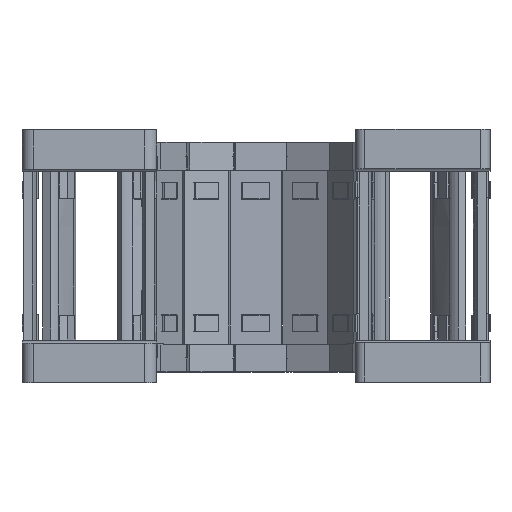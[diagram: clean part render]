
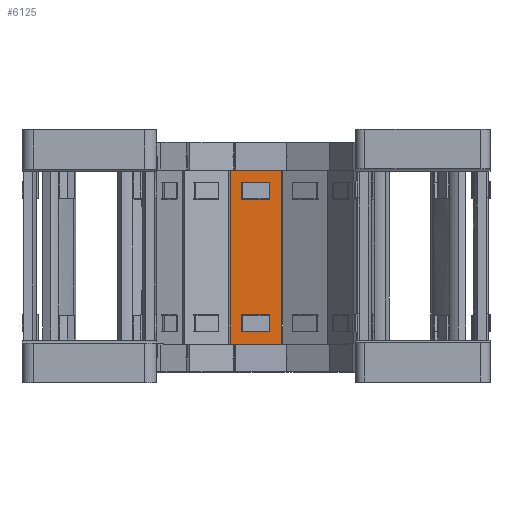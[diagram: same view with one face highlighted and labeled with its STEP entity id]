
A CAD part, top view. The second image highlights one B-rep face of the part: STEP entity #6125.
In plain terms, the highlighted planar face has unit normal (0.026, 0, 1).
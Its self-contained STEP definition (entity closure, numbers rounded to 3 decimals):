
#6125=ADVANCED_FACE('',(#25002,#25003,#25004),#8900,.F.);
#8900=PLANE('',#69244);
#13997=LINE('',#100575,#20853);
#14051=LINE('',#100734,#20907);
#14116=LINE('',#101094,#20972);
#14117=LINE('',#101096,#20973);
#14121=LINE('',#101104,#20977);
#14214=LINE('',#101405,#21070);
#14248=LINE('',#101515,#21104);
#14297=LINE('',#101839,#21153);
#14301=LINE('',#101851,#21157);
#14312=LINE('',#101876,#21168);
#14316=LINE('',#101883,#21172);
#14318=LINE('',#101887,#21174);
#14323=LINE('',#101917,#21179);
#14327=LINE('',#101927,#21183);
#14332=LINE('',#101959,#21188);
#14333=LINE('',#101960,#21189);
#14334=LINE('',#101961,#21190);
#14335=LINE('',#101963,#21191);
#20853=VECTOR('',#79300,1.);
#20907=VECTOR('',#79390,1.);
#20972=VECTOR('',#79607,1.);
#20973=VECTOR('',#79610,1.);
#20977=VECTOR('',#79616,1.);
#21070=VECTOR('',#79825,1.);
#21104=VECTOR('',#79883,1.);
#21153=VECTOR('',#80066,1.);
#21157=VECTOR('',#80076,1.);
#21168=VECTOR('',#80097,1.);
#21172=VECTOR('',#80103,1.);
#21174=VECTOR('',#80107,1.);
#21179=VECTOR('',#80120,1.);
#21183=VECTOR('',#80130,1.);
#21188=VECTOR('',#80149,1.);
#21189=VECTOR('',#80150,1.);
#21190=VECTOR('',#80151,1.);
#21191=VECTOR('',#80152,1.);
#25002=FACE_BOUND('',#26769,.T.);
#25003=FACE_BOUND('',#26770,.T.);
#25004=FACE_BOUND('',#26771,.T.);
#26769=EDGE_LOOP('',(#37878,#37879,#37880,#37881,#37882,#37883));
#26770=EDGE_LOOP('',(#37884,#37885,#37886,#37887,#37888,#37889));
#26771=EDGE_LOOP('',(#37890,#37891,#37892,#37893,#37894,#37895));
#37878=ORIENTED_EDGE('',*,*,#59926,.T.);
#37879=ORIENTED_EDGE('',*,*,#59874,.F.);
#37880=ORIENTED_EDGE('',*,*,#59741,.F.);
#37881=ORIENTED_EDGE('',*,*,#59898,.F.);
#37882=ORIENTED_EDGE('',*,*,#59431,.F.);
#37883=ORIENTED_EDGE('',*,*,#59608,.F.);
#37884=ORIENTED_EDGE('',*,*,#59927,.F.);
#37885=ORIENTED_EDGE('',*,*,#59908,.T.);
#37886=ORIENTED_EDGE('',*,*,#59896,.T.);
#37887=ORIENTED_EDGE('',*,*,#59880,.F.);
#37888=ORIENTED_EDGE('',*,*,#59783,.F.);
#37889=ORIENTED_EDGE('',*,*,#59913,.F.);
#37890=ORIENTED_EDGE('',*,*,#59609,.F.);
#37891=ORIENTED_EDGE('',*,*,#59892,.T.);
#37892=ORIENTED_EDGE('',*,*,#59928,.T.);
#37893=ORIENTED_EDGE('',*,*,#59929,.F.);
#37894=ORIENTED_EDGE('',*,*,#59613,.F.);
#37895=ORIENTED_EDGE('',*,*,#59497,.F.);
#51365=VERTEX_POINT('',#100574);
#51366=VERTEX_POINT('',#100576);
#51392=VERTEX_POINT('',#100658);
#51418=VERTEX_POINT('',#100721);
#51483=VERTEX_POINT('',#101093);
#51484=VERTEX_POINT('',#101097);
#51487=VERTEX_POINT('',#101105);
#51574=VERTEX_POINT('',#101404);
#51575=VERTEX_POINT('',#101406);
#51595=VERTEX_POINT('',#101477);
#51609=VERTEX_POINT('',#101507);
#51661=VERTEX_POINT('',#101840);
#51666=VERTEX_POINT('',#101852);
#51674=VERTEX_POINT('',#101875);
#51677=VERTEX_POINT('',#101884);
#51683=VERTEX_POINT('',#101918);
#51685=VERTEX_POINT('',#101926);
#51690=VERTEX_POINT('',#101962);
#59431=EDGE_CURVE('',#51365,#51366,#13997,.T.);
#59497=EDGE_CURVE('',#51418,#51392,#14051,.T.);
#59608=EDGE_CURVE('',#51483,#51365,#14116,.T.);
#59609=EDGE_CURVE('',#51484,#51418,#14117,.T.);
#59613=EDGE_CURVE('',#51392,#51487,#14121,.T.);
#59741=EDGE_CURVE('',#51574,#51575,#14214,.T.);
#59783=EDGE_CURVE('',#51595,#51609,#14248,.T.);
#59874=EDGE_CURVE('',#51575,#51661,#14297,.T.);
#59880=EDGE_CURVE('',#51609,#51666,#14301,.T.);
#59892=EDGE_CURVE('',#51484,#51674,#14312,.T.);
#59896=EDGE_CURVE('',#51677,#51666,#14316,.T.);
#59898=EDGE_CURVE('',#51366,#51574,#14318,.T.);
#59908=EDGE_CURVE('',#51683,#51677,#14323,.T.);
#59913=EDGE_CURVE('',#51685,#51595,#14327,.T.);
#59926=EDGE_CURVE('',#51483,#51661,#14332,.T.);
#59927=EDGE_CURVE('',#51683,#51685,#14333,.T.);
#59928=EDGE_CURVE('',#51674,#51690,#14334,.T.);
#59929=EDGE_CURVE('',#51487,#51690,#14335,.T.);
#69244=AXIS2_PLACEMENT_3D('',#101964,#80153,#80154);
#79300=DIRECTION('',(1.,0.,-0.026));
#79390=DIRECTION('',(-1.,0.,0.026));
#79607=DIRECTION('',(1.,0.,-0.026));
#79610=DIRECTION('',(-1.,0.,0.026));
#79616=DIRECTION('',(-1.,0.,0.026));
#79825=DIRECTION('',(-1.,0.,0.026));
#79883=DIRECTION('',(1.,0.,-0.026));
#80066=DIRECTION('',(-1.,0.,0.026));
#80076=DIRECTION('',(1.,0.,-0.026));
#80097=DIRECTION('',(0.,-1.,0.));
#80103=DIRECTION('',(0.,-1.,0.));
#80107=DIRECTION('',(0.,-1.,0.));
#80120=DIRECTION('',(1.,0.,-0.026));
#80130=DIRECTION('',(1.,0.,-0.026));
#80149=DIRECTION('',(0.,-1.,0.));
#80150=DIRECTION('',(0.,-1.,0.));
#80151=DIRECTION('',(-1.,0.,0.026));
#80152=DIRECTION('',(0.,-1.,0.));
#80153=DIRECTION('',(-0.026,0.,-1.));
#80154=DIRECTION('',(1.,0.,-0.026));
#100574=CARTESIAN_POINT('',(379.153,34.434,750.093));
#100575=CARTESIAN_POINT('',(378.817,34.434,750.102));
#100576=CARTESIAN_POINT('',(389.214,34.434,749.83));
#100658=CARTESIAN_POINT('',(380.87,31.822,750.048));
#100721=CARTESIAN_POINT('',(386.562,31.822,749.899));
#100734=CARTESIAN_POINT('',(386.736,31.822,749.895));
#101093=CARTESIAN_POINT('',(378.217,34.434,750.118));
#101094=CARTESIAN_POINT('',(378.817,34.434,750.102));
#101096=CARTESIAN_POINT('',(386.736,31.822,749.895));
#101097=CARTESIAN_POINT('',(386.736,31.822,749.895));
#101104=CARTESIAN_POINT('',(386.736,31.822,749.895));
#101105=CARTESIAN_POINT('',(380.695,31.822,750.053));
#101404=CARTESIAN_POINT('',(389.214,-3.066,749.83));
#101405=CARTESIAN_POINT('',(378.817,-3.066,750.102));
#101406=CARTESIAN_POINT('',(379.153,-3.066,750.093));
#101477=CARTESIAN_POINT('',(380.87,-0.455,750.048));
#101507=CARTESIAN_POINT('',(386.562,-0.455,749.899));
#101515=CARTESIAN_POINT('',(386.736,-0.455,749.895));
#101839=CARTESIAN_POINT('',(378.817,-3.066,750.102));
#101840=CARTESIAN_POINT('',(378.217,-3.066,750.118));
#101851=CARTESIAN_POINT('',(386.736,-0.455,749.895));
#101852=CARTESIAN_POINT('',(386.736,-0.455,749.895));
#101875=CARTESIAN_POINT('',(386.736,28.15,749.895));
#101876=CARTESIAN_POINT('',(386.736,46.919,749.895));
#101883=CARTESIAN_POINT('',(386.736,-15.552,749.895));
#101884=CARTESIAN_POINT('',(386.736,3.218,749.895));
#101887=CARTESIAN_POINT('',(389.214,-33.552,749.83));
#101917=CARTESIAN_POINT('',(386.736,3.218,749.895));
#101918=CARTESIAN_POINT('',(380.695,3.218,750.053));
#101926=CARTESIAN_POINT('',(380.695,-0.455,750.053));
#101927=CARTESIAN_POINT('',(386.736,-0.455,749.895));
#101959=CARTESIAN_POINT('',(378.217,-33.552,750.118));
#101960=CARTESIAN_POINT('',(380.695,-15.552,750.053));
#101961=CARTESIAN_POINT('',(386.736,28.15,749.895));
#101962=CARTESIAN_POINT('',(380.695,28.15,750.053));
#101963=CARTESIAN_POINT('',(380.695,46.919,750.053));
#101964=CARTESIAN_POINT('',(376.74,-33.552,750.156));
